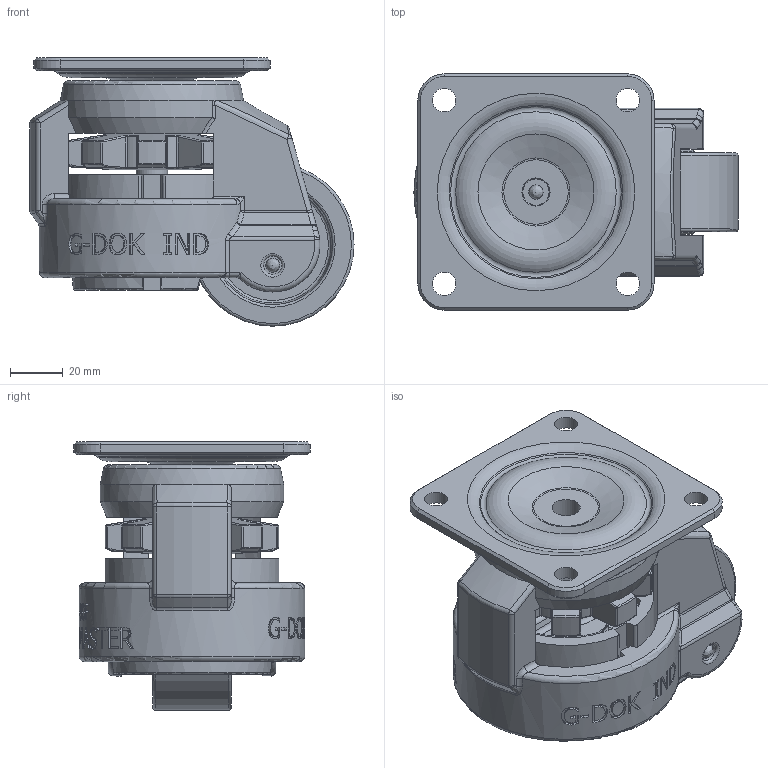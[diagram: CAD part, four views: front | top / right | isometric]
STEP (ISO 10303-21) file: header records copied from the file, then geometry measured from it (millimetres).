
FILE_DESCRIPTION(/* description */ (''),/* implementation_level */ '2;1');
FILE_NAME(/* name */ '32A03_2,5_F.stp',/* time_stamp */ '2022-09-05T08:36:00+08:00',/* author */ (''),/* organization */ (''),/* preprocessor_version */ 'ST-DEVELOPER v14',/* originating_system */ 'SIEMENS PLM Software NX 8.0',/* authorisation */ '');
FILE_SCHEMA (('AUTOMOTIVE_DESIGN { 1 0 10303 214 3 1 1 1 }'));
Products named in the file (1): 32A03_2,5_F
Bounding box: 123.5 x 90 x 102.24 mm (x, y, z)
Volume: 427342.4 mm3; surface area: 103549.7 mm2
Topology: 1 solids, 1 shells, 1235 faces, 3249 edges, 2043 vertices
Faces by surface type: plane 386, bspline 312, cylinder 290, torus 104, cone 79, sphere 64
Full cylindrical faces by diameter (mm): 3 x2, 7 x2, 9 x4, 10 x1, 10.7 x1, 12 x4, 15 x1, 19.4 x2, 25 x1, 27 x1, 28 x1, 39 x1, 41 x1, 45 x1, 62 x1
Entity records: 88702 total; most frequent: CARTESIAN_POINT 60757, ORIENTED_EDGE 6194, DIRECTION 5185, EDGE_CURVE 3097, AXIS2_PLACEMENT_3D 2062, VERTEX_POINT 1997, EDGE_LOOP 1381, ADVANCED_FACE 1235
